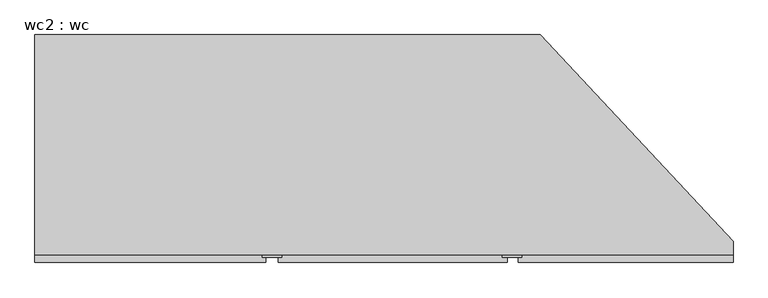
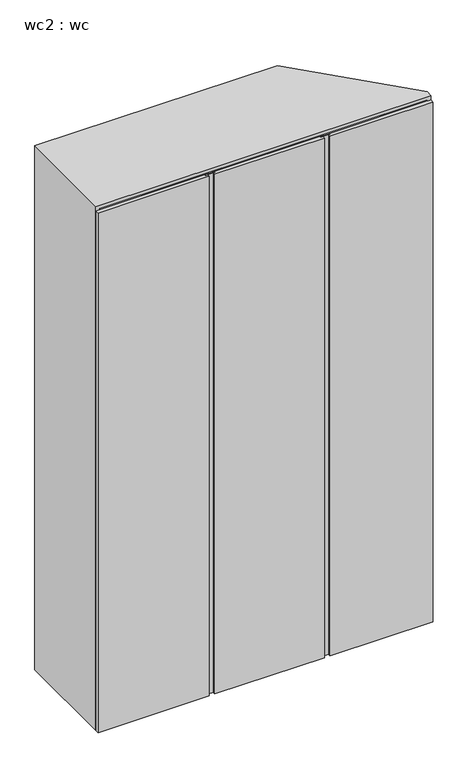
"""IFC4 building model written with IfcOpenShell, lengths in millimetres: proxy geometry, wc2 : wc."""

from ifc_helpers import new_model, si_unit, frame, origin, place, context, project, spatial, polyline, outline, extrude, faceted_brep, source, transform, mapped, element, save


def wc2_wc_a8ddb0bd(model_context):
    return source(origin(), model_context, "Body", "SolidModel", [
        extrude(outline(polyline([(90013.3334259, 20896.7754811), (89973.3334259, 20896.7754811), (89973.3334259, 20901.7754811), (90013.3334259, 20901.7754811), (90013.3334259, 20896.7754811)])), frame((0.0, 0.0, 104.5578412), z_axis=(0.0, 0.0, 1.0), x_axis=(1.0, 0.0, 0.0)), (0.0, 0.0, 1.0), 2339.4421588),
        extrude(outline(polyline([(89523.3334259, 20896.7754811), (89483.3334259, 20896.7754811), (89483.3334259, 20901.7754811), (89523.3334259, 20901.7754811), (89523.3334259, 20896.7754811)])), frame((0.0, 0.0, 104.5578412), z_axis=(0.0, 0.0, 1.0), x_axis=(1.0, 0.0, 0.0)), (0.0, 0.0, 1.0), 2339.4421588),
        extrude(outline(polyline([(90445.3020926, 20885.7754811), (90006.523356, 20885.7754811), (90006.523356, 20901.7754811), (90445.3020926, 20901.7754811), (90445.3020926, 20885.7754811)])), frame((0.0, 0.0, 104.5578412), z_axis=(0.0, 0.0, 1.0), x_axis=(1.0, 0.0, 0.0)), (0.0, 0.0, 1.0), 2339.4421588),
        extrude(outline(polyline([(89983.3334259, 20885.7754811), (89515.5640244, 20885.7754811), (89515.5640244, 20901.7754811), (89983.3334259, 20901.7754811), (89983.3334259, 20885.7754811)])), frame((0.0, 0.0, 104.5578412), z_axis=(0.0, 0.0, 1.0), x_axis=(1.0, 0.0, 0.0)), (0.0, 0.0, 1.0), 2339.4421588),
        extrude(outline(polyline([(89490.3215407, 20885.7754811), (89018.3334259, 20885.7754811), (89018.3334259, 20901.7754811), (89490.3215407, 20901.7754811), (89490.3215407, 20885.7754811)])), frame((0.0, 0.0, 104.5578412), z_axis=(0.0, 0.0, 1.0), x_axis=(1.0, 0.0, 0.0)), (0.0, 0.0, 1.0), 2339.4421588),
        faceted_brep([(90445.3020926, 20901.7754811, 2464.0), (89018.3334259, 20901.7754811, 2464.0), (89018.3334259, 20901.7754811, 104.5578412), (90445.3020926, 20901.7754811, 104.5578412), (89034.3334259, 20901.7754811, 2448.0), (90429.3020926, 20901.7754811, 2448.0), (90429.3020926, 20901.7754811, 120.5578412), (89034.3334259, 20901.7754811, 120.5578412), (89018.3334259, 21351.7754811, 104.5578412), (89018.3334259, 21351.7754811, 2464.0), (90050.9521126, 21351.7754811, 2464.0), (90050.9521126, 21351.7754811, 2448.0), (89034.3334259, 21351.7754811, 2448.0), (89034.3334259, 21351.7754811, 120.5578412), (90050.9521126, 21351.7754811, 120.5578412), (90050.9521126, 21351.7754811, 104.5578412), (90445.3020926, 20929.2043052, 2464.0), (90445.3020926, 20929.2043052, 104.5578412), (90429.3020926, 20946.3493265, 120.5578412), (90429.3020926, 20946.3493265, 2448.0)], [[[0, 1, 2, 3], [4, 5, 6, 7]], [[8, 9, 10, 11, 12, 13, 14, 15]], [[1, 0, 16, 10, 9]], [[2, 1, 9, 8]], [[3, 2, 8, 15, 17]], [[0, 3, 17, 16]], [[15, 14, 18, 19, 11, 10, 16, 17]], [[5, 4, 12, 11, 19]], [[6, 5, 19, 18]], [[7, 6, 18, 14, 13]], [[4, 7, 13, 12]]]),
    ])


if __name__ == "__main__":
    model = new_model("IFC4")
    model_context = context("Model", 3, world=origin())
    ifc_project = project(units=[si_unit("LENGTHUNIT", "METRE", prefix="MILLI")], contexts=[model_context])
    site = spatial("IfcSite", under=ifc_project)
    building = spatial("IfcBuilding", under=site)
    placement = place(None, origin())
    wc2_wc_shape = wc2_wc_a8ddb0bd(model_context)
    element("IfcBuildingElementProxy", 1, Name="wc2 : wc", ObjectType="wc2 : wc", at=placement, inside=building, context=model_context, shape_type="MappedRepresentation", body=[
        mapped(wc2_wc_shape, transform((0.0, 0.0, 0.0), x_axis=(1.0, 0.0, 0.0), y_axis=(0.0, 1.0, 0.0), z_axis=(0.0, 0.0, 1.0))),
    ])
    save(model, "model.ifc")
